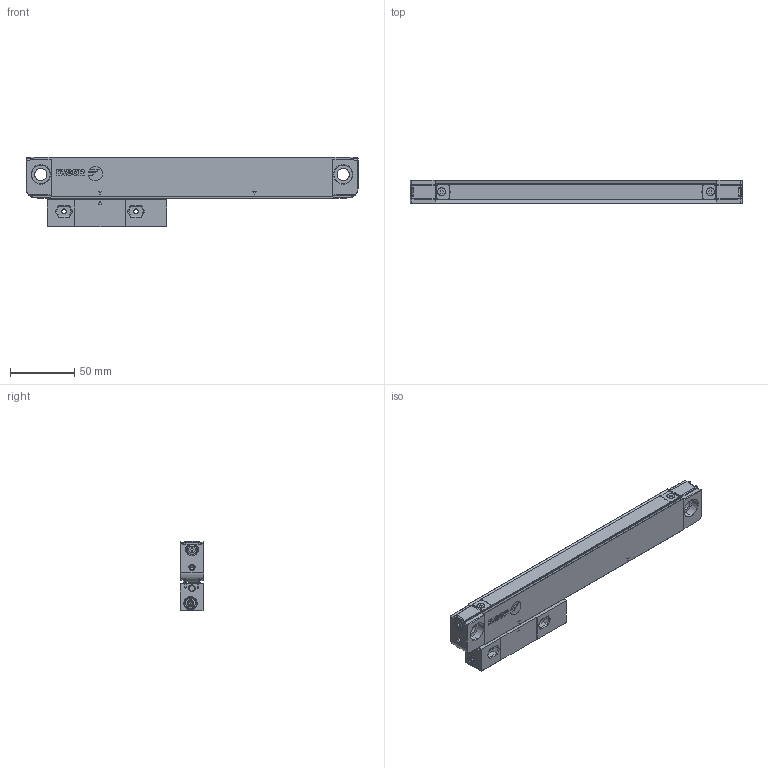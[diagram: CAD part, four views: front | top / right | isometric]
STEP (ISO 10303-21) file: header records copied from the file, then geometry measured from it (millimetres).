
FILE_DESCRIPTION(('Creo Elements/Direct Modeling STEP Export'),'2;1');
FILE_NAME('REGLA_S2-120-T.stp','2018-10-31T15:32:48',(''),(''),'Creo Elements/Direct Modeling STEP processor for AP214 (Solid Model)','Creo Elements/Direct Modeling 19.0G 27-Nov-2017 (C) Parametric Technology GmbH','');
FILE_SCHEMA(('AUTOMOTIVE_DESIGN { 1 0 10303 214 1 1 1 1 }'));
Length unit declared in the file: millimetre
Products named in the file (3): REGLA_S-120-T; CABEZA_ROSCADA_REGLA_S; REGLA_S2-120-T
Assembly tree (2 placements, depth 2):
  REGLA_S2-120-T
    CABEZA_ROSCADA_REGLA_S
    REGLA_S-120-T
Bounding box: 258 x 18.3 x 54.3 mm (x, y, z)
Volume: 162118.8 mm3; surface area: 47153 mm2
Topology: 2 solids, 23 shells, 883 faces, 2253 edges, 1450 vertices
Faces by surface type: plane 355, cylinder 303, cone 174, bspline 38, torus 6, sphere 4, extrusion 3
Entity records: 30964 total; most frequent: CARTESIAN_POINT 7375, ORIENTED_EDGE 4478, DIRECTION 3797, EDGE_CURVE 2239, VERTEX_POINT 1450, AXIS2_PLACEMENT_3D 1300, VECTOR 1197, LINE 1194
